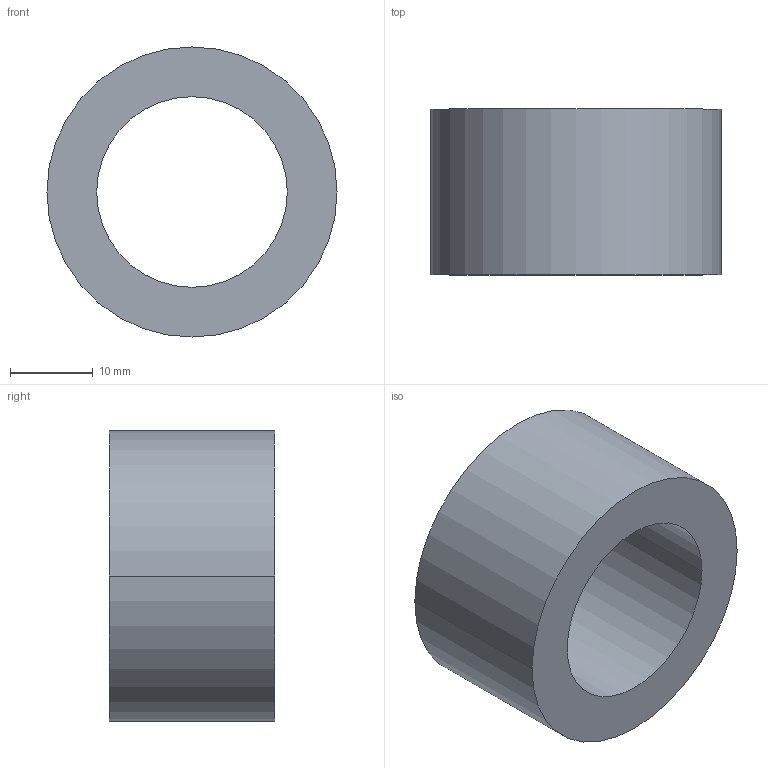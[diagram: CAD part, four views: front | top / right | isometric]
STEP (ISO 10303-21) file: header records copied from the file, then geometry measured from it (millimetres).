
FILE_DESCRIPTION (( 'STEP AP203' ), '1' );
FILE_NAME ('30800.WPP35H23.0.step', '2019-01-23T22:48:17', ( '' ), ( '' ), 'SwSTEP 2.0', 'SolidWorks 2017', '' );
FILE_SCHEMA (( 'CONFIG_CONTROL_DESIGN' ));
Length unit declared in the file: millimetre
Products named in the file (1): 30800.WPP35H23.0
Bounding box: 35 x 20 x 35 mm (x, y, z)
Volume: 10785.1 mm3; surface area: 4648.5 mm2
Topology: 1 solids, 1 shells, 8 faces, 16 edges, 10 vertices
Faces by surface type: cylinder 4, torus 2, plane 2
Entity records: 297 total; most frequent: DIRECTION 46, CARTESIAN_POINT 35, ORIENTED_EDGE 32, AXIS2_PLACEMENT_3D 21, EDGE_CURVE 16, CIRCLE 12, EDGE_LOOP 10, VERTEX_POINT 10
